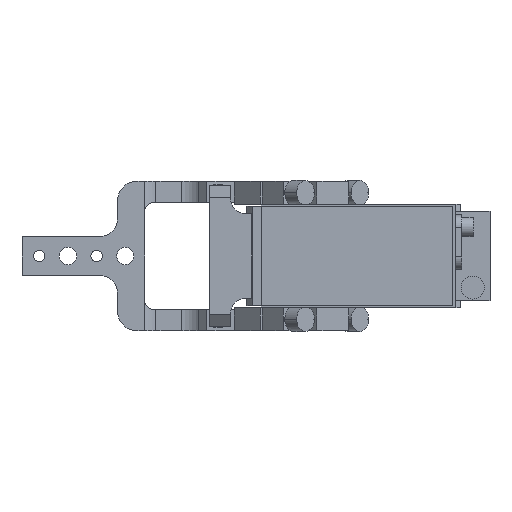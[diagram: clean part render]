
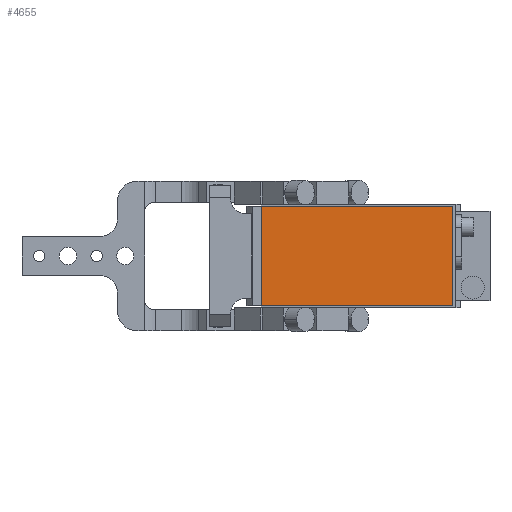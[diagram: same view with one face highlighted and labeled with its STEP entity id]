
A CAD part, front view. The second image highlights one B-rep face of the part: STEP entity #4655.
In plain terms, the highlighted planar face has unit normal (0, -1, 0).
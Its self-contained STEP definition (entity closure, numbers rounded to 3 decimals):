
#321 = LINE ( 'NONE', #7486, #12931 ) ;
#554 = LINE ( 'NONE', #6146, #9777 ) ;
#942 = DIRECTION ( 'NONE',  ( 1., 0., 0. ) ) ;
#1050 = CARTESIAN_POINT ( 'NONE',  ( -19., -286.5, 26. ) ) ;
#1922 = LINE ( 'NONE', #11239, #14095 ) ;
#2084 = ORIENTED_EDGE ( 'NONE', *, *, #4914, .T. ) ;
#2229 = VERTEX_POINT ( 'NONE', #3850 ) ;
#2895 = CARTESIAN_POINT ( 'NONE',  ( -19., -286.5, -26. ) ) ;
#3609 = VERTEX_POINT ( 'NONE', #1050 ) ;
#3850 = CARTESIAN_POINT ( 'NONE',  ( 81., -286.5, -26. ) ) ;
#4655 = ADVANCED_FACE ( 'NONE', ( #14664 ), #13434, .T. ) ;
#4803 = DIRECTION ( 'NONE',  ( -1., 0., 0. ) ) ;
#4914 = EDGE_CURVE ( 'NONE', #9616, #3609, #7408, .T. ) ;
#5202 = CARTESIAN_POINT ( 'NONE',  ( 0., -286.5, 0. ) ) ;
#5475 = VECTOR ( 'NONE', #4803, 1000. ) ;
#5501 = DIRECTION ( 'NONE',  ( 0., -1., 0. ) ) ;
#6146 = CARTESIAN_POINT ( 'NONE',  ( -19., -286.5, 26. ) ) ;
#7408 = LINE ( 'NONE', #10750, #5475 ) ;
#7486 = CARTESIAN_POINT ( 'NONE',  ( 81., -286.5, 26. ) ) ;
#7641 = DIRECTION ( 'NONE',  ( 0., 0., -1. ) ) ;
#7997 = ORIENTED_EDGE ( 'NONE', *, *, #12672, .T. ) ;
#8195 = VERTEX_POINT ( 'NONE', #2895 ) ;
#8802 = ORIENTED_EDGE ( 'NONE', *, *, #14281, .T. ) ;
#9616 = VERTEX_POINT ( 'NONE', #14907 ) ;
#9777 = VECTOR ( 'NONE', #14375, 1000. ) ;
#10750 = CARTESIAN_POINT ( 'NONE',  ( -19., -286.5, 26. ) ) ;
#11036 = EDGE_LOOP ( 'NONE', ( #11485, #7997, #8802, #2084 ) ) ;
#11239 = CARTESIAN_POINT ( 'NONE',  ( -19., -286.5, -26. ) ) ;
#11485 = ORIENTED_EDGE ( 'NONE', *, *, #13890, .T. ) ;
#12672 = EDGE_CURVE ( 'NONE', #8195, #2229, #1922, .T. ) ;
#12931 = VECTOR ( 'NONE', #14196, 1000. ) ;
#13434 = PLANE ( 'NONE',  #13506 ) ;
#13506 = AXIS2_PLACEMENT_3D ( 'NONE', #5202, #5501, #7641 ) ;
#13890 = EDGE_CURVE ( 'NONE', #3609, #8195, #554, .T. ) ;
#14095 = VECTOR ( 'NONE', #942, 1000. ) ;
#14196 = DIRECTION ( 'NONE',  ( 0., 0., 1. ) ) ;
#14281 = EDGE_CURVE ( 'NONE', #2229, #9616, #321, .T. ) ;
#14375 = DIRECTION ( 'NONE',  ( 0., 0., -1. ) ) ;
#14664 = FACE_OUTER_BOUND ( 'NONE', #11036, .T. ) ;
#14907 = CARTESIAN_POINT ( 'NONE',  ( 81., -286.5, 26. ) ) ;
